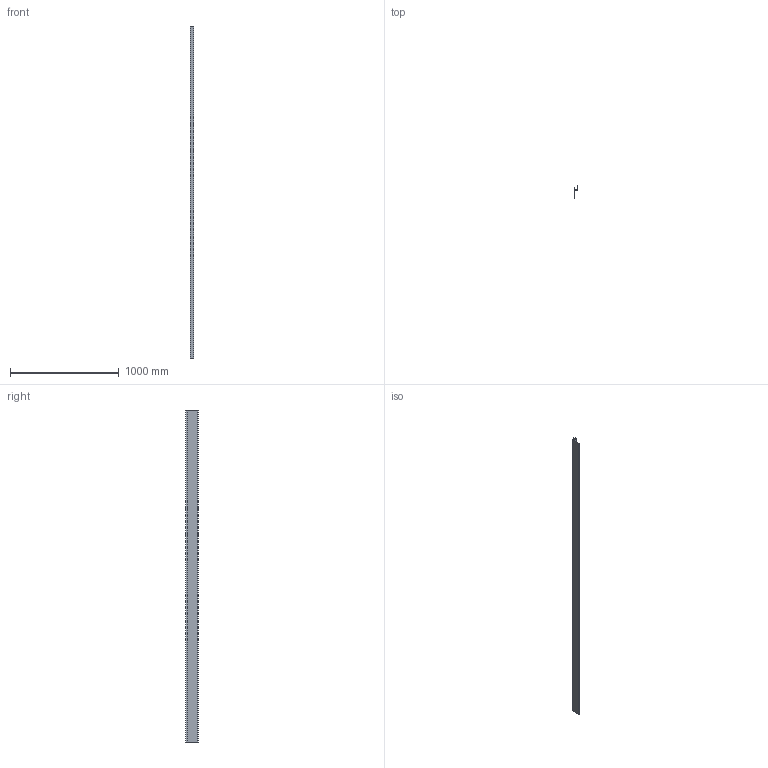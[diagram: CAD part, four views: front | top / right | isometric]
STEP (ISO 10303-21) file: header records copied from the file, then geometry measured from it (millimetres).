
FILE_DESCRIPTION(/* description */ (''),/* implementation_level */ '2;1');
FILE_NAME(/* name */ 'M12I (1-2).stp',/* time_stamp */ '2025-05-14T09:16:02-04:00',/* author */ ('gabrielle.gilbert'),/* organization */ (''),/* preprocessor_version */ 'ST-DEVELOPER v20',/* originating_system */ 'Autodesk Inventor 2025',/* authorisation */ '');
FILE_SCHEMA (('AUTOMOTIVE_DESIGN { 1 0 10303 214 3 1 1 }'));
Length unit declared in the file: inch
Products named in the file (1): M12I (1-2)
Bounding box: 36.6 x 113.62 x 3048 mm (x, y, z)
Volume: 286418.6 mm3; surface area: 1262883.8 mm2
Topology: 1 solids, 1 shells, 22 faces, 60 edges, 40 vertices
Faces by surface type: plane 14, cylinder 8
Entity records: 745 total; most frequent: CARTESIAN_POINT 123, DIRECTION 122, ORIENTED_EDGE 120, EDGE_CURVE 60, LINE 44, VECTOR 44, VERTEX_POINT 40, AXIS2_PLACEMENT_3D 39
